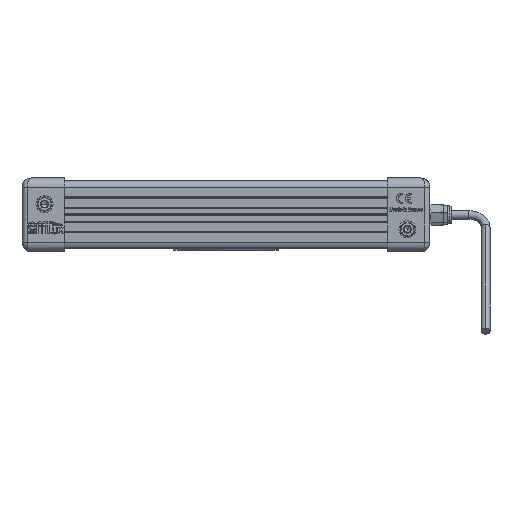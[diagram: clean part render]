
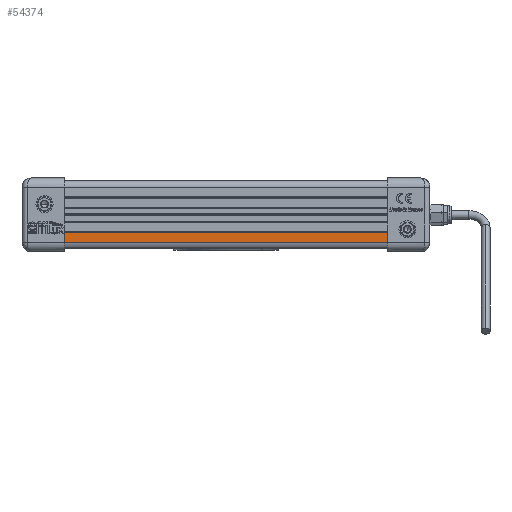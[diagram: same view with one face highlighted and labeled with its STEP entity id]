
A CAD part, front view. The second image highlights one B-rep face of the part: STEP entity #54374.
In plain terms, the highlighted planar face has unit normal (0, -1, 0) as drawn and (-1, 0, 0) by its records, which use the part's own axes.
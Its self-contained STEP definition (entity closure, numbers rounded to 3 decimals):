
#4878 = CARTESIAN_POINT ( 'NONE',  ( -9., -10.5, 199. ) ) ;
#5612 = CARTESIAN_POINT ( 'NONE',  ( -9., -10.5, 0. ) ) ;
#8498 = DIRECTION ( 'NONE',  ( 0., 0., -1. ) ) ;
#10567 = VERTEX_POINT ( 'NONE', #5612 ) ;
#11022 = ORIENTED_EDGE ( 'NONE', *, *, #65529, .F. ) ;
#12599 = FACE_OUTER_BOUND ( 'NONE', #64496, .T. ) ;
#18438 = CARTESIAN_POINT ( 'NONE',  ( -9., -16., 199. ) ) ;
#22553 = CARTESIAN_POINT ( 'NONE',  ( -9., -16., 0. ) ) ;
#24291 = DIRECTION ( 'NONE',  ( 0., 0., -1. ) ) ;
#24643 = CARTESIAN_POINT ( 'NONE',  ( -9., -10.5, 199. ) ) ;
#25005 = CARTESIAN_POINT ( 'NONE',  ( -9., -10.5, 199. ) ) ;
#27102 = VECTOR ( 'NONE', #55659, 1000. ) ;
#27569 = VERTEX_POINT ( 'NONE', #22553 ) ;
#28909 = VERTEX_POINT ( 'NONE', #25005 ) ;
#31574 = ORIENTED_EDGE ( 'NONE', *, *, #44662, .F. ) ;
#34890 = DIRECTION ( 'NONE',  ( 1., 0., 0. ) ) ;
#37802 = LINE ( 'NONE', #4878, #27102 ) ;
#39994 = EDGE_CURVE ( 'NONE', #10567, #27569, #65681, .T. ) ;
#43218 = LINE ( 'NONE', #58521, #58025 ) ;
#44582 = CARTESIAN_POINT ( 'NONE',  ( -9., -10.5, 0. ) ) ;
#44662 = EDGE_CURVE ( 'NONE', #28909, #62260, #37802, .T. ) ;
#45849 = CARTESIAN_POINT ( 'NONE',  ( -9., -10.5, 199. ) ) ;
#47265 = LINE ( 'NONE', #24643, #56728 ) ;
#53366 = AXIS2_PLACEMENT_3D ( 'NONE', #45849, #34890, #56761 ) ;
#54374 = ADVANCED_FACE ( 'NONE', ( #12599 ), #69455, .F. ) ;
#54781 = DIRECTION ( 'NONE',  ( 0., -1., 0. ) ) ;
#55659 = DIRECTION ( 'NONE',  ( 0., -1., 0. ) ) ;
#55848 = ORIENTED_EDGE ( 'NONE', *, *, #64203, .T. ) ;
#56728 = VECTOR ( 'NONE', #24291, 1000. ) ;
#56761 = DIRECTION ( 'NONE',  ( 0., 1., 0. ) ) ;
#58025 = VECTOR ( 'NONE', #8498, 1000. ) ;
#58521 = CARTESIAN_POINT ( 'NONE',  ( -9., -16., 199. ) ) ;
#62260 = VERTEX_POINT ( 'NONE', #18438 ) ;
#64203 = EDGE_CURVE ( 'NONE', #28909, #10567, #47265, .T. ) ;
#64496 = EDGE_LOOP ( 'NONE', ( #68545, #11022, #31574, #55848 ) ) ;
#65529 = EDGE_CURVE ( 'NONE', #62260, #27569, #43218, .T. ) ;
#65681 = LINE ( 'NONE', #44582, #66455 ) ;
#66455 = VECTOR ( 'NONE', #54781, 1000. ) ;
#68545 = ORIENTED_EDGE ( 'NONE', *, *, #39994, .T. ) ;
#69455 = PLANE ( 'NONE',  #53366 ) ;
